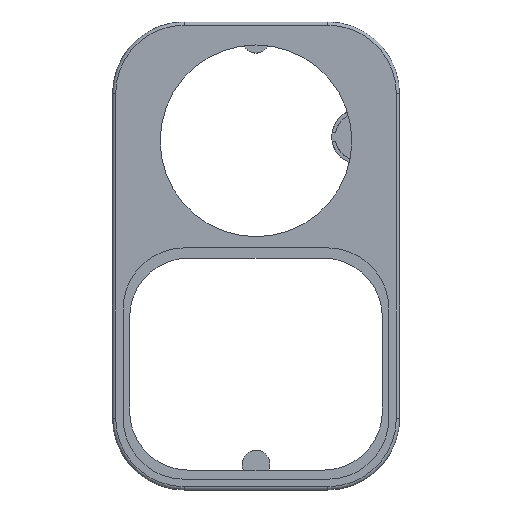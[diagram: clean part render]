
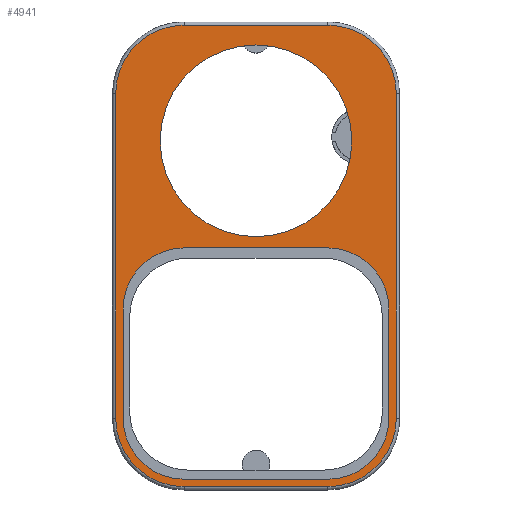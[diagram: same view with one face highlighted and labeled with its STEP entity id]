
A CAD part, top view. The second image highlights one B-rep face of the part: STEP entity #4941.
In plain terms, the highlighted planar face has unit normal (0, 0, 1).
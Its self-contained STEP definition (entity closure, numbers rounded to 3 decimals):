
#4217 = VERTEX_POINT('',#4218);
#4218 = CARTESIAN_POINT('',(0.55,12.5,12.3));
#4227 = VERTEX_POINT('',#4228);
#4228 = CARTESIAN_POINT('',(12.5,0.55,12.3));
#4235 = EDGE_CURVE('',#4217,#4227,#4236,.T.);
#4236 = CIRCLE('',#4237,11.95);
#4237 = AXIS2_PLACEMENT_3D('',#4238,#4239,#4240);
#4238 = CARTESIAN_POINT('',(12.5,12.5,12.3));
#4239 = DIRECTION('',(0.,0.,1.));
#4240 = DIRECTION('',(-1.,0.,0.));
#4251 = VERTEX_POINT('',#4252);
#4252 = CARTESIAN_POINT('',(0.55,69.,12.3));
#4259 = EDGE_CURVE('',#4251,#4217,#4260,.T.);
#4260 = LINE('',#4261,#4262);
#4261 = CARTESIAN_POINT('',(0.55,69.,12.3));
#4262 = VECTOR('',#4263,1.);
#4263 = DIRECTION('',(-0.,-1.,-0.));
#4276 = EDGE_CURVE('',#4227,#4277,#4279,.T.);
#4277 = VERTEX_POINT('',#4278);
#4278 = CARTESIAN_POINT('',(37.5,0.55,12.3));
#4279 = LINE('',#4280,#4281);
#4280 = CARTESIAN_POINT('',(12.5,0.55,12.3));
#4281 = VECTOR('',#4282,1.);
#4282 = DIRECTION('',(1.,0.,0.));
#4301 = VERTEX_POINT('',#4302);
#4302 = CARTESIAN_POINT('',(12.5,80.95,12.3));
#4311 = EDGE_CURVE('',#4301,#4251,#4312,.T.);
#4312 = CIRCLE('',#4313,11.95);
#4313 = AXIS2_PLACEMENT_3D('',#4314,#4315,#4316);
#4314 = CARTESIAN_POINT('',(12.5,69.,12.3));
#4315 = DIRECTION('',(0.,-0.,1.));
#4316 = DIRECTION('',(0.,1.,0.));
#4329 = VERTEX_POINT('',#4330);
#4330 = CARTESIAN_POINT('',(49.45,12.5,12.3));
#4337 = EDGE_CURVE('',#4277,#4329,#4338,.T.);
#4338 = CIRCLE('',#4339,11.95);
#4339 = AXIS2_PLACEMENT_3D('',#4340,#4341,#4342);
#4340 = CARTESIAN_POINT('',(37.5,12.5,12.3));
#4341 = DIRECTION('',(-0.,0.,1.));
#4342 = DIRECTION('',(0.,-1.,0.));
#4353 = VERTEX_POINT('',#4354);
#4354 = CARTESIAN_POINT('',(37.5,80.95,12.3));
#4361 = EDGE_CURVE('',#4353,#4301,#4362,.T.);
#4362 = LINE('',#4363,#4364);
#4363 = CARTESIAN_POINT('',(37.5,80.95,12.3));
#4364 = VECTOR('',#4365,1.);
#4365 = DIRECTION('',(-1.,-0.,-0.));
#4378 = EDGE_CURVE('',#4329,#4379,#4381,.T.);
#4379 = VERTEX_POINT('',#4380);
#4380 = CARTESIAN_POINT('',(49.45,69.,12.3));
#4381 = LINE('',#4382,#4383);
#4382 = CARTESIAN_POINT('',(49.45,12.5,12.3));
#4383 = VECTOR('',#4384,1.);
#4384 = DIRECTION('',(0.,1.,0.));
#4405 = EDGE_CURVE('',#4379,#4353,#4406,.T.);
#4406 = CIRCLE('',#4407,11.95);
#4407 = AXIS2_PLACEMENT_3D('',#4408,#4409,#4410);
#4408 = CARTESIAN_POINT('',(37.5,69.,12.3));
#4409 = DIRECTION('',(0.,0.,1.));
#4410 = DIRECTION('',(1.,0.,0.));
#4701 = VERTEX_POINT('',#4702);
#4702 = CARTESIAN_POINT('',(41.7,60.8,12.3));
#4708 = EDGE_CURVE('',#4701,#4701,#4709,.T.);
#4709 = CIRCLE('',#4710,16.7);
#4710 = AXIS2_PLACEMENT_3D('',#4711,#4712,#4713);
#4711 = CARTESIAN_POINT('',(25.,60.8,12.3));
#4712 = DIRECTION('',(0.,0.,-1.));
#4713 = DIRECTION('',(1.,0.,0.));
#4725 = VERTEX_POINT('',#4726);
#4726 = CARTESIAN_POINT('',(12.5,1.85,12.3));
#4734 = VERTEX_POINT('',#4735);
#4735 = CARTESIAN_POINT('',(1.85,12.5,12.3));
#4741 = EDGE_CURVE('',#4725,#4734,#4742,.T.);
#4742 = CIRCLE('',#4743,10.65);
#4743 = AXIS2_PLACEMENT_3D('',#4744,#4745,#4746);
#4744 = CARTESIAN_POINT('',(12.5,12.5,12.3));
#4745 = DIRECTION('',(0.,0.,-1.));
#4746 = DIRECTION('',(1.,0.,0.));
#4759 = VERTEX_POINT('',#4760);
#4760 = CARTESIAN_POINT('',(1.85,31.5,12.3));
#4766 = EDGE_CURVE('',#4734,#4759,#4767,.T.);
#4767 = LINE('',#4768,#4769);
#4768 = CARTESIAN_POINT('',(1.85,26.625,12.3));
#4769 = VECTOR('',#4770,1.);
#4770 = DIRECTION('',(0.,1.,0.));
#4782 = EDGE_CURVE('',#4783,#4725,#4785,.T.);
#4783 = VERTEX_POINT('',#4784);
#4784 = CARTESIAN_POINT('',(37.5,1.85,12.3));
#4785 = LINE('',#4786,#4787);
#4786 = CARTESIAN_POINT('',(18.75,1.85,12.3));
#4787 = VECTOR('',#4788,1.);
#4788 = DIRECTION('',(-1.,0.,0.));
#4806 = VERTEX_POINT('',#4807);
#4807 = CARTESIAN_POINT('',(12.5,42.15,12.3));
#4813 = EDGE_CURVE('',#4759,#4806,#4814,.T.);
#4814 = CIRCLE('',#4815,10.65);
#4815 = AXIS2_PLACEMENT_3D('',#4816,#4817,#4818);
#4816 = CARTESIAN_POINT('',(12.5,31.5,12.3));
#4817 = DIRECTION('',(0.,0.,-1.));
#4818 = DIRECTION('',(1.,0.,0.));
#4830 = VERTEX_POINT('',#4831);
#4831 = CARTESIAN_POINT('',(48.15,12.5,12.3));
#4839 = EDGE_CURVE('',#4830,#4783,#4840,.T.);
#4840 = CIRCLE('',#4841,10.65);
#4841 = AXIS2_PLACEMENT_3D('',#4842,#4843,#4844);
#4842 = CARTESIAN_POINT('',(37.5,12.5,12.3));
#4843 = DIRECTION('',(0.,0.,-1.));
#4844 = DIRECTION('',(1.,0.,0.));
#4856 = EDGE_CURVE('',#4857,#4806,#4859,.T.);
#4857 = VERTEX_POINT('',#4858);
#4858 = CARTESIAN_POINT('',(37.5,42.15,12.3));
#4859 = LINE('',#4860,#4861);
#4860 = CARTESIAN_POINT('',(18.75,42.15,12.3));
#4861 = VECTOR('',#4862,1.);
#4862 = DIRECTION('',(-1.,0.,0.));
#4881 = VERTEX_POINT('',#4882);
#4882 = CARTESIAN_POINT('',(48.15,31.5,12.3));
#4888 = EDGE_CURVE('',#4830,#4881,#4889,.T.);
#4889 = LINE('',#4890,#4891);
#4890 = CARTESIAN_POINT('',(48.15,26.625,12.3));
#4891 = VECTOR('',#4892,1.);
#4892 = DIRECTION('',(0.,1.,0.));
#4904 = EDGE_CURVE('',#4857,#4881,#4905,.T.);
#4905 = CIRCLE('',#4906,10.65);
#4906 = AXIS2_PLACEMENT_3D('',#4907,#4908,#4909);
#4907 = CARTESIAN_POINT('',(37.5,31.5,12.3));
#4908 = DIRECTION('',(0.,0.,-1.));
#4909 = DIRECTION('',(1.,0.,0.));
#4941 = ADVANCED_FACE('',(#4942,#4952,#4962),#4965,.T.);
#4942 = FACE_BOUND('',#4943,.T.);
#4943 = EDGE_LOOP('',(#4944,#4945,#4946,#4947,#4948,#4949,#4950,#4951));
#4944 = ORIENTED_EDGE('',*,*,#4235,.T.);
#4945 = ORIENTED_EDGE('',*,*,#4276,.T.);
#4946 = ORIENTED_EDGE('',*,*,#4337,.T.);
#4947 = ORIENTED_EDGE('',*,*,#4378,.T.);
#4948 = ORIENTED_EDGE('',*,*,#4405,.T.);
#4949 = ORIENTED_EDGE('',*,*,#4361,.T.);
#4950 = ORIENTED_EDGE('',*,*,#4311,.T.);
#4951 = ORIENTED_EDGE('',*,*,#4259,.T.);
#4952 = FACE_BOUND('',#4953,.T.);
#4953 = EDGE_LOOP('',(#4954,#4955,#4956,#4957,#4958,#4959,#4960,#4961));
#4954 = ORIENTED_EDGE('',*,*,#4782,.T.);
#4955 = ORIENTED_EDGE('',*,*,#4741,.T.);
#4956 = ORIENTED_EDGE('',*,*,#4766,.T.);
#4957 = ORIENTED_EDGE('',*,*,#4813,.T.);
#4958 = ORIENTED_EDGE('',*,*,#4856,.F.);
#4959 = ORIENTED_EDGE('',*,*,#4904,.T.);
#4960 = ORIENTED_EDGE('',*,*,#4888,.F.);
#4961 = ORIENTED_EDGE('',*,*,#4839,.T.);
#4962 = FACE_BOUND('',#4963,.T.);
#4963 = EDGE_LOOP('',(#4964));
#4964 = ORIENTED_EDGE('',*,*,#4708,.T.);
#4965 = PLANE('',#4966);
#4966 = AXIS2_PLACEMENT_3D('',#4967,#4968,#4969);
#4967 = CARTESIAN_POINT('',(25.,40.75,12.3));
#4968 = DIRECTION('',(0.,0.,1.));
#4969 = DIRECTION('',(1.,0.,0.));
